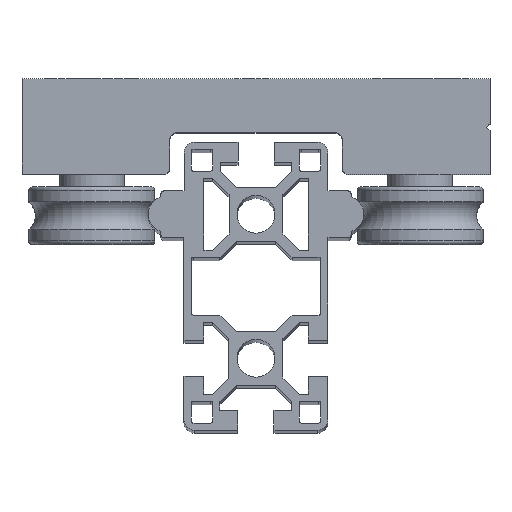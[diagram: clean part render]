
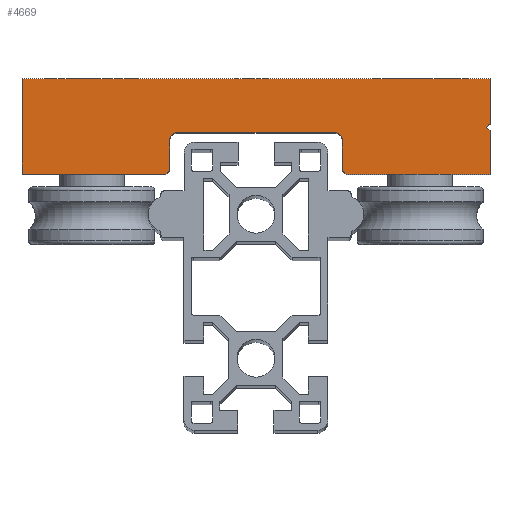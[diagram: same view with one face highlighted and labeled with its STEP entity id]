
A CAD part, top view. The second image highlights one B-rep face of the part: STEP entity #4669.
In plain terms, the highlighted planar face has unit normal (0, 0, 1).
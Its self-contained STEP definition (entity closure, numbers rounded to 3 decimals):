
#32 = CARTESIAN_POINT ( 'NONE',  ( 64., 13., 120. ) ) ;
#175 = LINE ( 'NONE', #3160, #11659 ) ;
#235 = DIRECTION ( 'NONE',  ( 0., -1., 0. ) ) ;
#559 = VERTEX_POINT ( 'NONE', #8968 ) ;
#690 = ORIENTED_EDGE ( 'NONE', *, *, #7240, .T. ) ;
#752 = CARTESIAN_POINT ( 'NONE',  ( 0., 0., 120. ) ) ;
#857 = LINE ( 'NONE', #1742, #6494 ) ;
#908 = EDGE_LOOP ( 'NONE', ( #5495, #6819, #3794, #5055, #6771, #690, #9128, #2117, #3523, #2217, #7295, #10228, #8297, #2416, #4202 ) ) ;
#1178 = EDGE_CURVE ( 'NONE', #3354, #559, #1474, .T. ) ;
#1245 = LINE ( 'NONE', #10105, #3466 ) ;
#1373 = VERTEX_POINT ( 'NONE', #9698 ) ;
#1376 = VERTEX_POINT ( 'NONE', #12435 ) ;
#1387 = VERTEX_POINT ( 'NONE', #7241 ) ;
#1440 = CARTESIAN_POINT ( 'NONE',  ( -24., 1., 120. ) ) ;
#1474 = LINE ( 'NONE', #4393, #5399 ) ;
#1742 = CARTESIAN_POINT ( 'NONE',  ( 64., 13., 120. ) ) ;
#1932 = VERTEX_POINT ( 'NONE', #32 ) ;
#1935 = CARTESIAN_POINT ( 'NONE',  ( 24., 0., 120. ) ) ;
#1957 = CARTESIAN_POINT ( 'NONE',  ( -65., 26.5, 120. ) ) ;
#1978 = DIRECTION ( 'NONE',  ( -1., 0., 0. ) ) ;
#2117 = ORIENTED_EDGE ( 'NONE', *, *, #11330, .T. ) ;
#2181 = EDGE_CURVE ( 'NONE', #11923, #1932, #3374, .T. ) ;
#2217 = ORIENTED_EDGE ( 'NONE', *, *, #7419, .T. ) ;
#2231 = DIRECTION ( 'NONE',  ( 1., 0., 0. ) ) ;
#2289 = EDGE_CURVE ( 'NONE', #3323, #2930, #11130, .T. ) ;
#2416 = ORIENTED_EDGE ( 'NONE', *, *, #2624, .T. ) ;
#2510 = VERTEX_POINT ( 'NONE', #7288 ) ;
#2624 = EDGE_CURVE ( 'NONE', #5186, #2510, #10545, .T. ) ;
#2748 = DIRECTION ( 'NONE',  ( 0., -1., 0. ) ) ;
#2824 = VECTOR ( 'NONE', #12169, 1000. ) ;
#2930 = VERTEX_POINT ( 'NONE', #8810 ) ;
#3134 = CARTESIAN_POINT ( 'NONE',  ( 65., 26.5, 120. ) ) ;
#3160 = CARTESIAN_POINT ( 'NONE',  ( 65., 0., 120. ) ) ;
#3265 = CARTESIAN_POINT ( 'NONE',  ( -65., 0., 120. ) ) ;
#3323 = VERTEX_POINT ( 'NONE', #11849 ) ;
#3354 = VERTEX_POINT ( 'NONE', #4186 ) ;
#3374 = LINE ( 'NONE', #10314, #2824 ) ;
#3466 = VECTOR ( 'NONE', #7115, 1000. ) ;
#3523 = ORIENTED_EDGE ( 'NONE', *, *, #12514, .T. ) ;
#3794 = ORIENTED_EDGE ( 'NONE', *, *, #4524, .T. ) ;
#3858 = DIRECTION ( 'NONE',  ( -1., 0., 0. ) ) ;
#4069 = CARTESIAN_POINT ( 'NONE',  ( -22., 11.5, 120. ) ) ;
#4161 = CARTESIAN_POINT ( 'NONE',  ( -65., 0., 120. ) ) ;
#4186 = CARTESIAN_POINT ( 'NONE',  ( 24., 1., 120. ) ) ;
#4202 = ORIENTED_EDGE ( 'NONE', *, *, #7601, .T. ) ;
#4214 = VERTEX_POINT ( 'NONE', #4842 ) ;
#4218 = VECTOR ( 'NONE', #9590, 1000. ) ;
#4234 = FACE_OUTER_BOUND ( 'NONE', #908, .T. ) ;
#4315 = VECTOR ( 'NONE', #3858, 1000. ) ;
#4328 = LINE ( 'NONE', #3265, #10969 ) ;
#4393 = CARTESIAN_POINT ( 'NONE',  ( 25., 0., 120. ) ) ;
#4524 = EDGE_CURVE ( 'NONE', #559, #1376, #1245, .T. ) ;
#4669 = ADVANCED_FACE ( 'NONE', ( #4234 ), #8132, .F. ) ;
#4839 = EDGE_CURVE ( 'NONE', #1376, #11923, #6379, .T. ) ;
#4842 = CARTESIAN_POINT ( 'NONE',  ( -65., 0., 120. ) ) ;
#5055 = ORIENTED_EDGE ( 'NONE', *, *, #4839, .T. ) ;
#5068 = VECTOR ( 'NONE', #2748, 1000. ) ;
#5085 = VERTEX_POINT ( 'NONE', #3134 ) ;
#5109 = LINE ( 'NONE', #4161, #8033 ) ;
#5186 = VERTEX_POINT ( 'NONE', #4069 ) ;
#5321 = DIRECTION ( 'NONE',  ( 0.707, 0.707, 0. ) ) ;
#5366 = LINE ( 'NONE', #9258, #11679 ) ;
#5399 = VECTOR ( 'NONE', #10471, 1000. ) ;
#5440 = DIRECTION ( 'NONE',  ( 0., 0., -1. ) ) ;
#5488 = DIRECTION ( 'NONE',  ( 0.707, 0.707, 0. ) ) ;
#5495 = ORIENTED_EDGE ( 'NONE', *, *, #9057, .T. ) ;
#5836 = VERTEX_POINT ( 'NONE', #8834 ) ;
#6379 = LINE ( 'NONE', #7270, #8175 ) ;
#6494 = VECTOR ( 'NONE', #5488, 1000. ) ;
#6588 = DIRECTION ( 'NONE',  ( 0., 1., 0. ) ) ;
#6771 = ORIENTED_EDGE ( 'NONE', *, *, #2181, .T. ) ;
#6817 = CARTESIAN_POINT ( 'NONE',  ( 22., 9.5, 120. ) ) ;
#6819 = ORIENTED_EDGE ( 'NONE', *, *, #1178, .T. ) ;
#7089 = VERTEX_POINT ( 'NONE', #1957 ) ;
#7115 = DIRECTION ( 'NONE',  ( 1., 0., 0. ) ) ;
#7240 = EDGE_CURVE ( 'NONE', #1932, #5836, #857, .T. ) ;
#7241 = CARTESIAN_POINT ( 'NONE',  ( -24., 9.5, 120. ) ) ;
#7270 = CARTESIAN_POINT ( 'NONE',  ( 65., 0., 120. ) ) ;
#7288 = CARTESIAN_POINT ( 'NONE',  ( 22., 11.5, 120. ) ) ;
#7295 = ORIENTED_EDGE ( 'NONE', *, *, #2289, .T. ) ;
#7405 = DIRECTION ( 'NONE',  ( 0., 1., 0. ) ) ;
#7419 = EDGE_CURVE ( 'NONE', #4214, #3323, #4328, .T. ) ;
#7601 = EDGE_CURVE ( 'NONE', #2510, #1373, #8335, .T. ) ;
#7754 = LINE ( 'NONE', #10635, #4315 ) ;
#7887 = DIRECTION ( 'NONE',  ( 0., 0., -1. ) ) ;
#7950 = DIRECTION ( 'NONE',  ( -1., 0., 0. ) ) ;
#8033 = VECTOR ( 'NONE', #235, 1000. ) ;
#8132 = PLANE ( 'NONE',  #8780 ) ;
#8175 = VECTOR ( 'NONE', #7405, 1000. ) ;
#8297 = ORIENTED_EDGE ( 'NONE', *, *, #8472, .T. ) ;
#8335 = CIRCLE ( 'NONE', #10163, 2. ) ;
#8472 = EDGE_CURVE ( 'NONE', #1387, #5186, #11656, .T. ) ;
#8698 = DIRECTION ( 'NONE',  ( 0., 1., 0. ) ) ;
#8780 = AXIS2_PLACEMENT_3D ( 'NONE', #752, #5440, #9399 ) ;
#8810 = CARTESIAN_POINT ( 'NONE',  ( -24., 1., 120. ) ) ;
#8834 = CARTESIAN_POINT ( 'NONE',  ( 65., 14., 120. ) ) ;
#8968 = CARTESIAN_POINT ( 'NONE',  ( 25., 0., 120. ) ) ;
#9034 = CARTESIAN_POINT ( 'NONE',  ( -22., 9.5, 120. ) ) ;
#9057 = EDGE_CURVE ( 'NONE', #1373, #3354, #10478, .T. ) ;
#9128 = ORIENTED_EDGE ( 'NONE', *, *, #10086, .T. ) ;
#9258 = CARTESIAN_POINT ( 'NONE',  ( -24., 0., 120. ) ) ;
#9399 = DIRECTION ( 'NONE',  ( -1., 0., 0. ) ) ;
#9445 = AXIS2_PLACEMENT_3D ( 'NONE', #9034, #7887, #7950 ) ;
#9590 = DIRECTION ( 'NONE',  ( 1., 0., 0. ) ) ;
#9698 = CARTESIAN_POINT ( 'NONE',  ( 24., 9.5, 120. ) ) ;
#10086 = EDGE_CURVE ( 'NONE', #5836, #5085, #175, .T. ) ;
#10105 = CARTESIAN_POINT ( 'NONE',  ( -65., 0., 120. ) ) ;
#10163 = AXIS2_PLACEMENT_3D ( 'NONE', #6817, #10709, #1978 ) ;
#10228 = ORIENTED_EDGE ( 'NONE', *, *, #11706, .T. ) ;
#10314 = CARTESIAN_POINT ( 'NONE',  ( 65., 12., 120. ) ) ;
#10471 = DIRECTION ( 'NONE',  ( 0.707, -0.707, 0. ) ) ;
#10478 = LINE ( 'NONE', #1935, #5068 ) ;
#10545 = LINE ( 'NONE', #11561, #4218 ) ;
#10635 = CARTESIAN_POINT ( 'NONE',  ( -65., 26.5, 120. ) ) ;
#10709 = DIRECTION ( 'NONE',  ( 0., 0., -1. ) ) ;
#10791 = CARTESIAN_POINT ( 'NONE',  ( 65., 12., 120. ) ) ;
#10969 = VECTOR ( 'NONE', #2231, 1000. ) ;
#11130 = LINE ( 'NONE', #1440, #11161 ) ;
#11161 = VECTOR ( 'NONE', #5321, 1000. ) ;
#11330 = EDGE_CURVE ( 'NONE', #5085, #7089, #7754, .T. ) ;
#11561 = CARTESIAN_POINT ( 'NONE',  ( 24., 11.5, 120. ) ) ;
#11656 = CIRCLE ( 'NONE', #9445, 2. ) ;
#11659 = VECTOR ( 'NONE', #8698, 1000. ) ;
#11679 = VECTOR ( 'NONE', #6588, 1000. ) ;
#11706 = EDGE_CURVE ( 'NONE', #2930, #1387, #5366, .T. ) ;
#11849 = CARTESIAN_POINT ( 'NONE',  ( -25., 0., 120. ) ) ;
#11923 = VERTEX_POINT ( 'NONE', #10791 ) ;
#12169 = DIRECTION ( 'NONE',  ( -0.707, 0.707, 0. ) ) ;
#12435 = CARTESIAN_POINT ( 'NONE',  ( 65., 0., 120. ) ) ;
#12514 = EDGE_CURVE ( 'NONE', #7089, #4214, #5109, .T. ) ;
